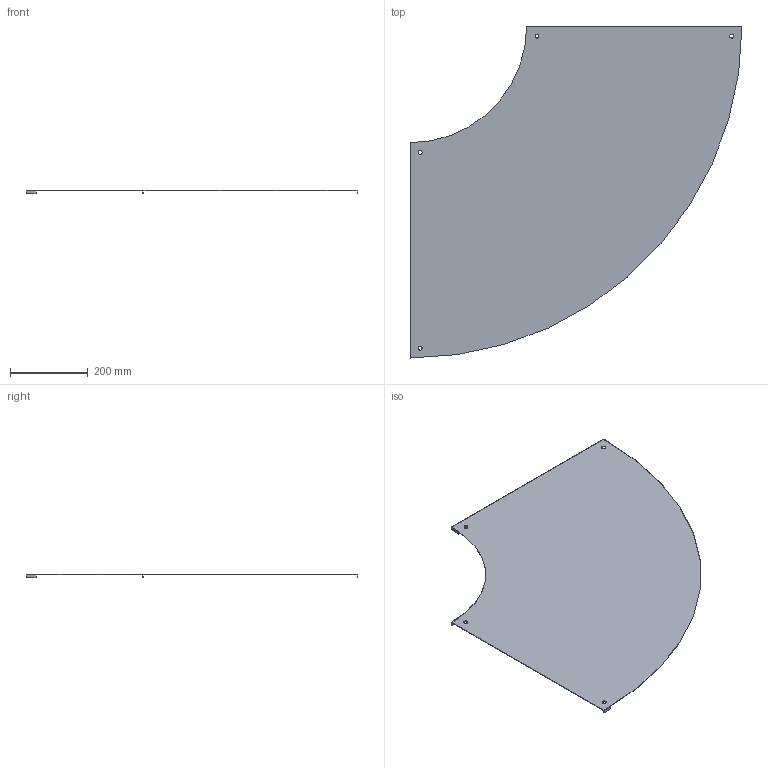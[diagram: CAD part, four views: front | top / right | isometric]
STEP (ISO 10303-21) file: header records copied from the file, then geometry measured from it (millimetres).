
FILE_DESCRIPTION(/* description */ ('','CAx-IF Rec.Pracs.---Representation and Presentation of Product Manufacturing Information (PMI)---4.0---2014-10-13'),/* implementation_level */ '2;1');
FILE_NAME(/* name */ 'Eurostrut_EFBC500-90-300_Cover Bend 90 for Cable Ladder ECL.step',/* time_stamp */ '2026-09-10T08:55:30+02:00',/* author */ (''),/* organization */ (''),/* preprocessor_version */ 'ST-DEVELOPER v20.1',/* originating_system */ 'Autodesk Revit 2027 27.2.0.39',/* authorisation */ '');
FILE_SCHEMA (('AP242_MANAGED_MODEL_BASED_3D_ENGINEERING_MIM_LF { 1 0 10303 442 2 1 4 }'));
Length unit declared in the file: millimetre
Products named in the file (5): TopLevelAssembly; Sweep; Sweep_1; Joined Solid Geometry; Joined Solid Geometry_1
Assembly tree (4 placements, depth 2):
  TopLevelAssembly
    Sweep
    Sweep_1
    Joined Solid Geometry
    Joined Solid Geometry_1
Bounding box: 852.5 x 852.5 x 9 mm (x, y, z)
Volume: 751569.4 mm3; surface area: 1007148 mm2
Topology: 9 solids, 9 shells, 66 faces, 144 edges, 96 vertices
Faces by surface type: plane 48, cylinder 18
Entity records: 1904 total; most frequent: DIRECTION 330, CARTESIAN_POINT 315, ORIENTED_EDGE 288, EDGE_CURVE 144, AXIS2_PLACEMENT_3D 111, LINE 108, VECTOR 108, VERTEX_POINT 96
